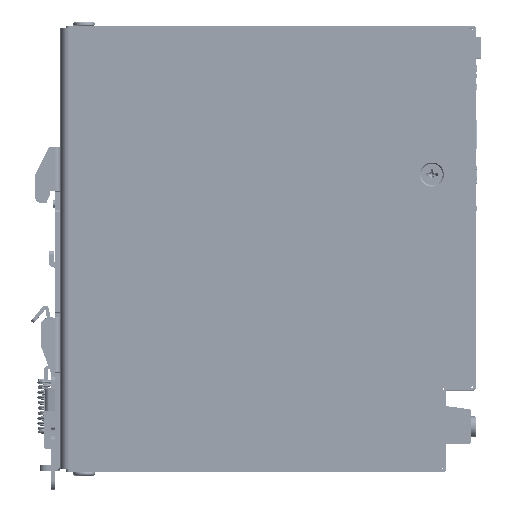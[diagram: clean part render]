
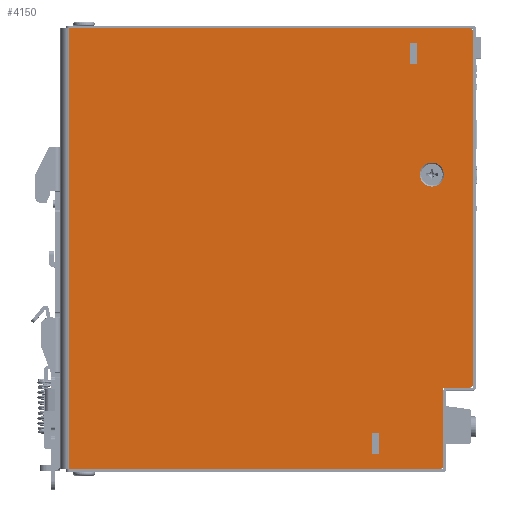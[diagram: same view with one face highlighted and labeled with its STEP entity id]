
A CAD part, top view. The second image highlights one B-rep face of the part: STEP entity #4150.
In plain terms, the highlighted planar face has unit normal (0, 0, 1).
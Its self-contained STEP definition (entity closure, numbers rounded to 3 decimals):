
#51=CARTESIAN_POINT('',(112.1,60.2,30.));
#52=DIRECTION('',(0.,0.,1.));
#53=DIRECTION('',(1.,0.,0.));
#54=AXIS2_PLACEMENT_3D('',#51,#52,#53);
#56=DIRECTION('',(0.,1.,0.));
#57=VECTOR('',#56,97.8);
#58=CARTESIAN_POINT('',(113.1,-37.6,30.));
#59=LINE('',#58,#57);
#60=CARTESIAN_POINT('',(112.1,-37.6,30.));
#61=DIRECTION('',(0.,0.,1.));
#62=DIRECTION('',(0.,-1.,0.));
#63=AXIS2_PLACEMENT_3D('',#60,#61,#62);
#65=DIRECTION('',(-1.,0.,0.));
#66=VECTOR('',#65,7.2);
#67=CARTESIAN_POINT('',(112.1,-38.6,30.));
#68=LINE('',#67,#66);
#69=DIRECTION('',(0.,1.,0.));
#70=VECTOR('',#69,21.6);
#71=CARTESIAN_POINT('',(104.9,-60.2,30.));
#72=LINE('',#71,#70);
#73=CARTESIAN_POINT('',(103.9,-60.2,30.));
#74=DIRECTION('',(0.,0.,1.));
#75=DIRECTION('',(0.,-1.,0.));
#76=AXIS2_PLACEMENT_3D('',#73,#74,#75);
#78=DIRECTION('',(1.,0.,0.));
#79=VECTOR('',#78,102.9);
#80=CARTESIAN_POINT('',(1.,-61.2,30.));
#81=LINE('',#80,#79);
#82=DIRECTION('',(-1.,0.,0.));
#83=VECTOR('',#82,111.1);
#84=CARTESIAN_POINT('',(112.1,61.2,30.));
#85=LINE('',#84,#83);
#86=CARTESIAN_POINT('',(101.7,20.6,30.));
#87=DIRECTION('',(0.,0.,1.));
#88=DIRECTION('',(-1.,0.,0.));
#89=AXIS2_PLACEMENT_3D('',#86,#87,#88);
#91=CARTESIAN_POINT('',(101.7,20.6,30.));
#92=DIRECTION('',(0.,0.,1.));
#93=DIRECTION('',(1.,0.,0.));
#94=AXIS2_PLACEMENT_3D('',#91,#92,#93);
#96=DIRECTION('',(1.,0.,0.));
#97=VECTOR('',#96,1.9);
#98=CARTESIAN_POINT('',(95.65,57.1,30.));
#99=LINE('',#98,#97);
#100=DIRECTION('',(0.,1.,0.));
#101=VECTOR('',#100,5.8);
#102=CARTESIAN_POINT('',(95.65,51.3,30.));
#103=LINE('',#102,#101);
#104=DIRECTION('',(-1.,0.,0.));
#105=VECTOR('',#104,1.9);
#106=CARTESIAN_POINT('',(97.55,51.3,30.));
#107=LINE('',#106,#105);
#108=DIRECTION('',(0.,-1.,0.));
#109=VECTOR('',#108,5.8);
#110=CARTESIAN_POINT('',(97.55,57.1,30.));
#111=LINE('',#110,#109);
#112=DIRECTION('',(1.,0.,0.));
#113=VECTOR('',#112,1.9);
#114=CARTESIAN_POINT('',(85.15,-51.3,30.));
#115=LINE('',#114,#113);
#116=DIRECTION('',(0.,1.,0.));
#117=VECTOR('',#116,5.8);
#118=CARTESIAN_POINT('',(85.15,-57.1,30.));
#119=LINE('',#118,#117);
#120=DIRECTION('',(-1.,0.,0.));
#121=VECTOR('',#120,1.9);
#122=CARTESIAN_POINT('',(87.05,-57.1,30.));
#123=LINE('',#122,#121);
#124=DIRECTION('',(0.,-1.,0.));
#125=VECTOR('',#124,5.8);
#126=CARTESIAN_POINT('',(87.05,-51.3,30.));
#127=LINE('',#126,#125);
#225=DIRECTION('',(0.,-1.,0.));
#226=VECTOR('',#225,122.4);
#227=CARTESIAN_POINT('',(1.,61.2,30.));
#228=LINE('',#227,#226);
#3201=CARTESIAN_POINT('',(1.,61.2,30.));
#3202=CARTESIAN_POINT('',(1.,-61.2,30.));
#3203=VERTEX_POINT('',#3201);
#3204=VERTEX_POINT('',#3202);
#3514=CARTESIAN_POINT('',(104.9,-38.6,30.));
#3516=VERTEX_POINT('',#3514);
#3716=CARTESIAN_POINT('',(113.1,60.2,30.));
#3717=CARTESIAN_POINT('',(112.1,61.2,30.));
#3718=VERTEX_POINT('',#3716);
#3719=VERTEX_POINT('',#3717);
#3736=CARTESIAN_POINT('',(112.1,-38.6,30.));
#3737=VERTEX_POINT('',#3736);
#3738=CARTESIAN_POINT('',(113.1,-37.6,30.));
#3739=VERTEX_POINT('',#3738);
#3760=CARTESIAN_POINT('',(103.9,-61.2,30.));
#3761=VERTEX_POINT('',#3760);
#3762=CARTESIAN_POINT('',(104.9,-60.2,30.));
#3763=VERTEX_POINT('',#3762);
#3914=CARTESIAN_POINT('',(98.35,20.6,30.));
#3915=VERTEX_POINT('',#3914);
#3918=CARTESIAN_POINT('',(105.05,20.6,30.));
#3919=VERTEX_POINT('',#3918);
#3928=CARTESIAN_POINT('',(95.65,57.1,30.));
#3929=CARTESIAN_POINT('',(97.55,57.1,30.));
#3930=VERTEX_POINT('',#3928);
#3931=VERTEX_POINT('',#3929);
#3932=CARTESIAN_POINT('',(97.55,51.3,30.));
#3933=VERTEX_POINT('',#3932);
#3934=CARTESIAN_POINT('',(95.65,51.3,30.));
#3935=VERTEX_POINT('',#3934);
#4024=CARTESIAN_POINT('',(85.15,-51.3,30.));
#4025=CARTESIAN_POINT('',(87.05,-51.3,30.));
#4026=VERTEX_POINT('',#4024);
#4027=VERTEX_POINT('',#4025);
#4028=CARTESIAN_POINT('',(87.05,-57.1,30.));
#4029=VERTEX_POINT('',#4028);
#4030=CARTESIAN_POINT('',(85.15,-57.1,30.));
#4031=VERTEX_POINT('',#4030);
#4100=CARTESIAN_POINT('',(-1.5,-61.2,30.));
#4101=DIRECTION('',(0.,0.,1.));
#4102=DIRECTION('',(0.,-1.,0.));
#4103=AXIS2_PLACEMENT_3D('',#4100,#4101,#4102);
#4104=PLANE('',#4103);
#4105=ORIENTED_EDGE('',*,*,#4089,.F.);
#4107=ORIENTED_EDGE('',*,*,#4106,.F.);
#4109=ORIENTED_EDGE('',*,*,#4108,.F.);
#4111=ORIENTED_EDGE('',*,*,#4110,.T.);
#4113=ORIENTED_EDGE('',*,*,#4112,.F.);
#4115=ORIENTED_EDGE('',*,*,#4114,.F.);
#4117=ORIENTED_EDGE('',*,*,#4116,.F.);
#4119=ORIENTED_EDGE('',*,*,#4118,.F.);
#4121=ORIENTED_EDGE('',*,*,#4120,.F.);
#4122=EDGE_LOOP('',(#4105,#4107,#4109,#4111,#4113,#4115,#4117,#4119,#4121));
#4123=FACE_OUTER_BOUND('',#4122,.F.);
#4125=ORIENTED_EDGE('',*,*,#4124,.T.);
#4127=ORIENTED_EDGE('',*,*,#4126,.T.);
#4128=EDGE_LOOP('',(#4125,#4127));
#4129=FACE_BOUND('',#4128,.F.);
#4131=ORIENTED_EDGE('',*,*,#4130,.F.);
#4133=ORIENTED_EDGE('',*,*,#4132,.F.);
#4135=ORIENTED_EDGE('',*,*,#4134,.F.);
#4137=ORIENTED_EDGE('',*,*,#4136,.F.);
#4138=EDGE_LOOP('',(#4131,#4133,#4135,#4137));
#4139=FACE_BOUND('',#4138,.F.);
#4141=ORIENTED_EDGE('',*,*,#4140,.F.);
#4143=ORIENTED_EDGE('',*,*,#4142,.F.);
#4145=ORIENTED_EDGE('',*,*,#4144,.F.);
#4147=ORIENTED_EDGE('',*,*,#4146,.F.);
#4148=EDGE_LOOP('',(#4141,#4143,#4145,#4147));
#4149=FACE_BOUND('',#4148,.F.);
#55=CIRCLE('',#54,1.);
#64=CIRCLE('',#63,1.);
#77=CIRCLE('',#76,1.);
#90=CIRCLE('',#89,3.35);
#95=CIRCLE('',#94,3.35);
#4089=EDGE_CURVE('',#3718,#3719,#55,.T.);
#4106=EDGE_CURVE('',#3739,#3718,#59,.T.);
#4108=EDGE_CURVE('',#3737,#3739,#64,.T.);
#4110=EDGE_CURVE('',#3737,#3516,#68,.T.);
#4112=EDGE_CURVE('',#3763,#3516,#72,.T.);
#4114=EDGE_CURVE('',#3761,#3763,#77,.T.);
#4116=EDGE_CURVE('',#3204,#3761,#81,.T.);
#4118=EDGE_CURVE('',#3203,#3204,#228,.T.);
#4120=EDGE_CURVE('',#3719,#3203,#85,.T.);
#4124=EDGE_CURVE('',#3915,#3919,#90,.T.);
#4126=EDGE_CURVE('',#3919,#3915,#95,.T.);
#4130=EDGE_CURVE('',#3930,#3931,#99,.T.);
#4132=EDGE_CURVE('',#3935,#3930,#103,.T.);
#4134=EDGE_CURVE('',#3933,#3935,#107,.T.);
#4136=EDGE_CURVE('',#3931,#3933,#111,.T.);
#4140=EDGE_CURVE('',#4026,#4027,#115,.T.);
#4142=EDGE_CURVE('',#4031,#4026,#119,.T.);
#4144=EDGE_CURVE('',#4029,#4031,#123,.T.);
#4146=EDGE_CURVE('',#4027,#4029,#127,.T.);
#4150=ADVANCED_FACE('',(#4123,#4129,#4139,#4149),#4104,.T.);
